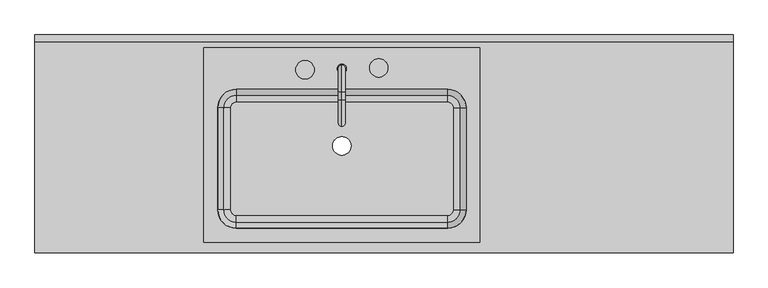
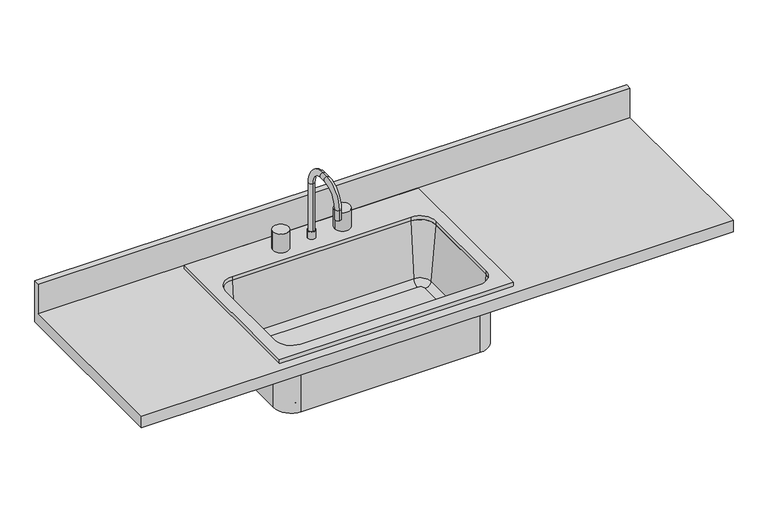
"""IFC4 building model written with IfcOpenShell, lengths in millimetres: furniture geometry, 流理台面 (3)-含水槽 : 600mm 深."""

from ifc_helpers import new_model, si_unit, point, frame, frame_2d, origin, place, context, project, spatial, polyline, circle_curve, ellipse_curve, trimmed, segment, composite_curve, outline, extrude, source, transform, mapped, element, save
from ifc_brep_helpers import plane_surface, cylinder_surface, revolved_surface, advanced_brep


def furniture_edb10db8(model_context):
    return source(origin(), model_context, "Body", "SolidModel", [
        advanced_brep(
        [(-6.7986409, -200.8, 684.1), (-63.9486409, -143.65, 684.1), (-63.9486409, -143.65, 900.0), (-6.7986409, -200.8, 900.0), (-6.7986409, -481.8, 684.1), (-63.9486409, -538.95, 684.1), (-646.1486409, -538.95, 684.1), (-703.2986409, -481.8, 684.1), (-703.2986409, -200.8, 684.1), (-646.1486409, -143.65, 684.1), (-380.4486409, -305.5454011, 684.1), (-329.6486409, -305.5454011, 684.1), (-48.6602227, -200.8, 693.625), (-63.9486409, -185.5115818, 693.625), (-646.1486409, -185.5115818, 693.625), (-661.4370591, -200.8, 693.625), (-661.4370591, -481.8, 693.625), (-646.1486409, -497.0884182, 693.625), (-63.9486409, -497.0884182, 693.625), (-48.6602227, -481.8, 693.625), (-380.4486409, -305.5454011, 693.625), (-329.6486409, -305.5454011, 693.625), (-29.6827137, -200.8, 711.0146831), (-63.9486409, -166.5340728, 711.0146831), (-13.1486409, -200.8, 900.0), (-63.9486409, -150.0, 900.0), (-6.7986409, -481.8, 900.0), (-29.6827137, -481.8, 711.0146831), (-13.1486409, -481.8, 900.0), (-63.9486409, -538.95, 900.0), (-63.9486409, -516.0659272, 711.0146831), (-63.9486409, -532.6, 900.0), (-646.1486409, -538.95, 900.0), (-646.1486409, -516.0659272, 711.0146831), (-646.1486409, -532.6, 900.0), (-703.2986409, -481.8, 900.0), (-680.4145681, -481.8, 711.0146831), (-696.9486409, -481.8, 900.0), (-703.2986409, -200.8, 900.0), (-680.4145681, -200.8, 711.0146831), (-696.9486409, -200.8, 900.0), (-646.1486409, -143.65, 900.0), (-646.1486409, -166.5340728, 711.0146831), (-646.1486409, -150.0, 900.0)],
        [
            (0, 1, circle_curve(frame((-63.9486409, -200.8, 684.1), z_axis=(0.0, 0.0, 1.0), x_axis=(0.0, 1.0, 0.0)), 57.15)),
            (1, 2),
            (2, 3, circle_curve(frame((-63.9486409, -200.8, 900.0), z_axis=(0.0, 0.0, -1.0), x_axis=(0.0, 1.0, 0.0)), 57.15)),
            (3, 0),
            (0, 4),
            (4, 5, circle_curve(frame((-63.9486409, -481.8, 684.1), z_axis=(0.0, 0.0, -1.0), x_axis=(1.0, 0.0, 0.0)), 57.15)),
            (5, 6),
            (6, 7, circle_curve(frame((-646.1486409, -481.8, 684.1), z_axis=(0.0, 0.0, -1.0), x_axis=(0.0, -1.0, 0.0)), 57.15)),
            (7, 8),
            (8, 9, circle_curve(frame((-646.1486409, -200.8, 684.1), z_axis=(0.0, 0.0, -1.0), x_axis=(-1.0, 0.0, 0.0)), 57.15)),
            (9, 1),
            (10, 11, circle_curve(frame((-355.0486409, -305.5454011, 684.1), z_axis=(0.0, 0.0, 1.0), x_axis=(1.0, 0.0, 0.0)), 25.4)),
            (11, 10, circle_curve(frame((-355.0486409, -305.5454011, 684.1), z_axis=(0.0, 0.0, 1.0), x_axis=(1.0, 0.0, 0.0)), 25.4)),
            (12, 13, circle_curve(frame((-63.9486409, -200.8, 693.625), z_axis=(0.0, 0.0, 1.0), x_axis=(0.0, 1.0, 0.0)), 15.2884182)),
            (13, 14),
            (14, 15, circle_curve(frame((-646.1486409, -200.8, 693.625), z_axis=(0.0, 0.0, 1.0), x_axis=(-1.0, 0.0, 0.0)), 15.2884182)),
            (15, 16),
            (16, 17, circle_curve(frame((-646.1486409, -481.8, 693.625), z_axis=(0.0, 0.0, 1.0), x_axis=(0.0, -1.0, 0.0)), 15.2884182)),
            (17, 18),
            (18, 19, circle_curve(frame((-63.9486409, -481.8, 693.625), z_axis=(0.0, 0.0, 1.0), x_axis=(1.0, 0.0, 0.0)), 15.2884182)),
            (19, 12),
            (20, 21, circle_curve(frame((-355.0486409, -305.5454011, 693.625), z_axis=(0.0, 0.0, -1.0), x_axis=(1.0, 0.0, 0.0)), 25.4)),
            (21, 20, circle_curve(frame((-355.0486409, -305.5454011, 693.625), z_axis=(0.0, 0.0, -1.0), x_axis=(1.0, 0.0, 0.0)), 25.4)),
            (12, 22, circle_curve(frame((-48.6602227, -200.8, 712.675), z_axis=(0.0, -1.0, 0.0), x_axis=(1.0, 0.0, 0.0)), 19.05)),
            (22, 23, circle_curve(frame((-63.9486409, -200.8, 711.0146831), z_axis=(0.0, 0.0, 1.0), x_axis=(0.0, 1.0, 0.0)), 34.2659272)),
            (23, 13, circle_curve(frame((-63.9486409, -185.5115818, 712.675), z_axis=(-1.0, 0.0, 0.0), x_axis=(0.0, 1.0, 0.0)), 19.05)),
            (22, 24),
            (24, 25, circle_curve(frame((-63.9486409, -200.8, 900.0), z_axis=(0.0, 0.0, 1.0), x_axis=(0.0, 1.0, 0.0)), 50.8)),
            (25, 23),
            (2, 25),
            (24, 3),
            (3, 26),
            (26, 4),
            (19, 27, circle_curve(frame((-48.6602227, -481.8, 712.675), z_axis=(0.0, -1.0, 0.0), x_axis=(1.0, 0.0, 0.0)), 19.05)),
            (27, 22),
            (27, 28),
            (28, 24),
            (28, 26),
            (26, 29, circle_curve(frame((-63.9486409, -481.8, 900.0), z_axis=(0.0, 0.0, -1.0), x_axis=(1.0, 0.0, 0.0)), 57.15)),
            (29, 5),
            (18, 30, circle_curve(frame((-63.9486409, -497.0884182, 712.675), z_axis=(-1.0, 0.0, 0.0), x_axis=(0.0, -1.0, 0.0)), 19.05)),
            (30, 27, circle_curve(frame((-63.9486409, -481.8, 711.0146831), z_axis=(0.0, 0.0, 1.0), x_axis=(1.0, 0.0, 0.0)), 34.2659272)),
            (30, 31),
            (31, 28, circle_curve(frame((-63.9486409, -481.8, 900.0), z_axis=(0.0, 0.0, 1.0), x_axis=(1.0, 0.0, 0.0)), 50.8)),
            (31, 29),
            (29, 32),
            (32, 6),
            (17, 33, circle_curve(frame((-646.1486409, -497.0884182, 712.675), z_axis=(-1.0, 0.0, 0.0), x_axis=(0.0, -1.0, 0.0)), 19.05)),
            (33, 30),
            (33, 34),
            (34, 31),
            (34, 32),
            (32, 35, circle_curve(frame((-646.1486409, -481.8, 900.0), z_axis=(0.0, 0.0, -1.0), x_axis=(0.0, -1.0, 0.0)), 57.15)),
            (35, 7),
            (16, 36, circle_curve(frame((-661.4370591, -481.8, 712.675), z_axis=(0.0, 1.0, 0.0), x_axis=(-1.0, 0.0, 0.0)), 19.05)),
            (36, 33, circle_curve(frame((-646.1486409, -481.8, 711.0146831), z_axis=(0.0, 0.0, 1.0), x_axis=(0.0, -1.0, 0.0)), 34.2659272)),
            (36, 37),
            (37, 34, circle_curve(frame((-646.1486409, -481.8, 900.0), z_axis=(0.0, 0.0, 1.0), x_axis=(0.0, -1.0, 0.0)), 50.8)),
            (37, 35),
            (35, 38),
            (38, 8),
            (15, 39, circle_curve(frame((-661.4370591, -200.8, 712.675), z_axis=(0.0, 1.0, 0.0), x_axis=(-1.0, 0.0, 0.0)), 19.05)),
            (39, 36),
            (39, 40),
            (40, 37),
            (40, 38),
            (38, 41, circle_curve(frame((-646.1486409, -200.8, 900.0), z_axis=(0.0, 0.0, -1.0), x_axis=(-1.0, 0.0, 0.0)), 57.15)),
            (41, 9),
            (14, 42, circle_curve(frame((-646.1486409, -185.5115818, 712.675), z_axis=(1.0, 0.0, 0.0), x_axis=(0.0, 1.0, 0.0)), 19.05)),
            (42, 39, circle_curve(frame((-646.1486409, -200.8, 711.0146831), z_axis=(0.0, 0.0, 1.0), x_axis=(-1.0, 0.0, 0.0)), 34.2659272)),
            (42, 43),
            (43, 40, circle_curve(frame((-646.1486409, -200.8, 900.0), z_axis=(0.0, 0.0, 1.0), x_axis=(-1.0, 0.0, 0.0)), 50.8)),
            (43, 41),
            (41, 2),
            (23, 42),
            (25, 43),
            (20, 10),
            (11, 21),
        ],
        [
            cylinder_surface(frame((-63.9486409, -200.8, 0.0), z_axis=(0.0, 0.0, -1.0), x_axis=(0.0, 1.0, 0.0)), 57.15),
            plane_surface(frame((-63.9486409, -200.8, 684.1), z_axis=(0.0, 0.0, -1.0), x_axis=(0.0, 1.0, 0.0))),
            plane_surface(frame((-63.9486409, -200.8, 693.625), z_axis=(0.0, 0.0, 1.0), x_axis=(0.0, 1.0, 0.0))),
            revolved_surface(trimmed(ellipse_curve(frame((-63.9486409, -185.5115818, 712.675), z_axis=(1.0, 0.0, 0.0), x_axis=(0.0, 1.0, 0.0)), 19.05, 19.05), [point((-63.9486409, -185.5115818, 693.625))], [point((-63.9486409, -166.5340728, 711.0146831))], True, "CARTESIAN"), (-63.9486409, -200.8, 0.0), (0.0, 0.0, -1.0)),
            revolved_surface(polyline([(-63.9486409, -166.5340728, 711.0146831), (-63.9486409, -150.0, 900.0)]), (-63.9486409, -200.8, 0.0), (0.0, 0.0, -1.0)),
            plane_surface(frame((-63.9486409, -200.8, 900.0), z_axis=(0.0, 0.0, 1.0), x_axis=(0.0, 1.0, 0.0))),
            plane_surface(frame((-6.7986409, -200.8, 900.0), z_axis=(1.0, 0.0, 0.0), x_axis=(0.0, -1.0, 0.0))),
            revolved_surface(polyline([(-29.610222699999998, -481.8, 712.675), (-29.610222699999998, -200.8, 712.675)]), (-48.6602227, -200.8, 712.675), (0.0, -1.0, 0.0)),
            plane_surface(frame((-29.6827137, -200.8, 711.0146831), z_axis=(-0.9961946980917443, 0.0, 0.08715574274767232), x_axis=(0.0, -1.0, 0.0))),
            plane_surface(frame((-13.1486409, -200.8, 900.0), z_axis=(0.0, 0.0, 1.0), x_axis=(0.0, -1.0, 0.0))),
            cylinder_surface(frame((-63.9486409, -481.8, 0.0), z_axis=(0.0, 0.0, -1.0), x_axis=(1.0, 0.0, 0.0)), 57.15),
            revolved_surface(trimmed(ellipse_curve(frame((-48.6602227, -481.8, 712.675), z_axis=(0.0, -1.0, 0.0), x_axis=(1.0, 0.0, 0.0)), 19.05, 19.05), [point((-48.6602227, -481.8, 693.625))], [point((-29.6827137, -481.8, 711.0146831))], True, "CARTESIAN"), (-63.9486409, -481.8, 0.0), (0.0, 0.0, -1.0)),
            revolved_surface(polyline([(-29.6827137, -481.8, 711.0146831), (-13.1486409, -481.8, 900.0)]), (-63.9486409, -481.8, 0.0), (0.0, 0.0, -1.0)),
            plane_surface(frame((-63.9486409, -481.8, 900.0), z_axis=(0.0, 0.0, 1.0), x_axis=(1.0, 0.0, 0.0))),
            plane_surface(frame((-63.9486409, -538.95, 900.0), z_axis=(0.0, -1.0, 0.0), x_axis=(-1.0, 0.0, 0.0))),
            revolved_surface(polyline([(-646.1486409, -516.1384181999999, 712.675), (-63.9486409, -516.1384181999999, 712.675)]), (-63.9486409, -497.0884182, 712.675), (-1.0, 0.0, 0.0)),
            plane_surface(frame((-63.9486409, -516.0659272, 711.0146831), z_axis=(0.0, 0.9961946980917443, 0.08715574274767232), x_axis=(-1.0, 0.0, 0.0))),
            plane_surface(frame((-63.9486409, -532.6, 900.0), z_axis=(0.0, 0.0, 1.0), x_axis=(-1.0, 0.0, 0.0))),
            cylinder_surface(frame((-646.1486409, -481.8, 0.0), z_axis=(0.0, 0.0, -1.0), x_axis=(0.0, -1.0, 0.0)), 57.15),
            revolved_surface(trimmed(ellipse_curve(frame((-646.1486409, -497.0884182, 712.675), z_axis=(-1.0, 0.0, 0.0), x_axis=(0.0, -1.0, 0.0)), 19.05, 19.05), [point((-646.1486409, -497.0884182, 693.625))], [point((-646.1486409, -516.0659272, 711.0146831))], True, "CARTESIAN"), (-646.1486409, -481.8, 0.0), (0.0, 0.0, -1.0)),
            revolved_surface(polyline([(-646.1486409, -516.0659272, 711.0146831), (-646.1486409, -532.6, 900.0)]), (-646.1486409, -481.8, 0.0), (0.0, 0.0, -1.0)),
            plane_surface(frame((-646.1486409, -481.8, 900.0), z_axis=(0.0, 0.0, 1.0), x_axis=(0.0, -1.0, 0.0))),
            plane_surface(frame((-703.2986409, -481.8, 900.0), z_axis=(-1.0, 0.0, 0.0), x_axis=(0.0, 1.0, 0.0))),
            revolved_surface(polyline([(-680.4870591, -200.8, 712.675), (-680.4870591, -481.8, 712.675)]), (-661.4370591, -481.8, 712.675), (0.0, 1.0, 0.0)),
            plane_surface(frame((-680.4145681, -481.8, 711.0146831), z_axis=(0.9961946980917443, 0.0, 0.08715574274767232), x_axis=(0.0, 1.0, 0.0))),
            plane_surface(frame((-696.9486409, -481.8, 900.0), z_axis=(0.0, 0.0, 1.0), x_axis=(0.0, 1.0, 0.0))),
            cylinder_surface(frame((-646.1486409, -200.8, 0.0), z_axis=(0.0, 0.0, -1.0), x_axis=(-1.0, 0.0, 0.0)), 57.15),
            revolved_surface(trimmed(ellipse_curve(frame((-661.4370591, -200.8, 712.675), z_axis=(0.0, 1.0, 0.0), x_axis=(-1.0, 0.0, 0.0)), 19.05, 19.05), [point((-661.4370591, -200.8, 693.625))], [point((-680.4145681, -200.8, 711.0146831))], True, "CARTESIAN"), (-646.1486409, -200.8, 0.0), (0.0, 0.0, -1.0)),
            revolved_surface(polyline([(-680.4145681, -200.8, 711.0146831), (-696.9486409, -200.8, 900.0)]), (-646.1486409, -200.8, 0.0), (0.0, 0.0, -1.0)),
            plane_surface(frame((-646.1486409, -200.8, 900.0), z_axis=(0.0, 0.0, 1.0), x_axis=(-1.0, 0.0, 0.0))),
            plane_surface(frame((-646.1486409, -143.65, 900.0), z_axis=(0.0, 1.0, 0.0), x_axis=(1.0, 0.0, 0.0))),
            revolved_surface(polyline([(-63.94864089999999, -166.46158179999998, 712.675), (-646.1486409, -166.46158179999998, 712.675)]), (-646.1486409, -185.5115818, 712.675), (1.0, 0.0, 0.0)),
            plane_surface(frame((-646.1486409, -166.5340728, 711.0146831), z_axis=(0.0, -0.9961946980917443, 0.08715574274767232), x_axis=(1.0, 0.0, 0.0))),
            plane_surface(frame((-646.1486409, -150.0, 900.0), z_axis=(0.0, 0.0, 1.0), x_axis=(1.0, 0.0, 0.0))),
            revolved_surface(polyline([(-329.64864090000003, -305.5454011, 684.1), (-329.64864090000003, -305.5454011, 693.625)]), (-355.0486409, -305.5454011, 0.0), (0.0, 0.0, -1.0)),
        ],
        [
            (0, [[1, 2, 3, 4]]),
            (1, [[-1, 5, 6, 7, 8, 9, 10, 11], [12, 13]]),
            (2, [[14, 15, 16, 17, 18, 19, 20, 21], [22, 23]]),
            (3, [[-14, 24, 25, 26]]),
            (4, [[-25, 27, 28, 29]]),
            (5, [[-3, 30, -28, 31]]),
            (6, [[-4, 32, 33, -5]]),
            (7, [[-24, -21, 34, 35]]),
            (8, [[-27, -35, 36, 37]]),
            (9, [[-31, -37, 38, -32]]),
            (10, [[-33, 39, 40, -6]]),
            (11, [[-34, -20, 41, 42]]),
            (12, [[-36, -42, 43, 44]]),
            (13, [[-38, -44, 45, -39]]),
            (14, [[-40, 46, 47, -7]]),
            (15, [[-41, -19, 48, 49]]),
            (16, [[-43, -49, 50, 51]]),
            (17, [[-45, -51, 52, -46]]),
            (18, [[-47, 53, 54, -8]]),
            (19, [[-48, -18, 55, 56]]),
            (20, [[-50, -56, 57, 58]]),
            (21, [[-52, -58, 59, -53]]),
            (22, [[-54, 60, 61, -9]]),
            (23, [[-55, -17, 62, 63]]),
            (24, [[-57, -63, 64, 65]]),
            (25, [[-59, -65, 66, -60]]),
            (26, [[-61, 67, 68, -10]]),
            (27, [[-62, -16, 69, 70]]),
            (28, [[-64, -70, 71, 72]]),
            (29, [[-66, -72, 73, -67]]),
            (30, [[-2, -11, -68, 74]]),
            (31, [[-26, 75, -69, -15]]),
            (32, [[-29, 76, -71, -75]]),
            (33, [[-30, -74, -73, -76]]),
            (34, [[-22, 77, -13, 78]]),
            (34, [[-23, -78, -12, -77]]),
        ],
    ),
        advanced_brep(
        [(-367.7486409, -92.85, 938.1), (-342.3486409, -92.85, 938.1), (-355.0486409, -83.325, 938.1), (-355.0486409, -102.375, 938.1), (-367.7486409, -92.85, 912.7), (-342.3486409, -92.85, 912.7), (-355.0486409, -83.325, 1100.025), (-355.0486409, -102.375, 1100.025), (-355.0486409, -156.35, 1173.05), (-355.0486409, -156.35, 1154.0), (-355.0486409, -178.575, 1173.05), (-355.0486409, -178.575, 1154.0), (-355.0486409, -251.6, 1100.025), (-355.0486409, -232.55, 1100.025), (-355.0486409, -251.6, 1065.1), (-355.0486409, -232.55, 1065.1)],
        [
            (0, 1, circle_curve(frame((-355.0486409, -92.85, 938.1), z_axis=(0.0, 0.0, 1.0), x_axis=(1.0, 0.0, 0.0)), 12.7)),
            (1, 0, circle_curve(frame((-355.0486409, -92.85, 938.1), z_axis=(0.0, 0.0, 1.0), x_axis=(1.0, 0.0, 0.0)), 12.7)),
            (2, 3, circle_curve(frame((-355.0486409, -92.85, 938.1), z_axis=(0.0, 0.0, -1.0), x_axis=(0.0, -1.0, 0.0)), 9.525)),
            (3, 2, circle_curve(frame((-355.0486409, -92.85, 938.1), z_axis=(0.0, 0.0, -1.0), x_axis=(0.0, -1.0, 0.0)), 9.525)),
            (4, 5, circle_curve(frame((-355.0486409, -92.85, 912.7), z_axis=(0.0, 0.0, -1.0), x_axis=(1.0, 0.0, 0.0)), 12.7)),
            (5, 4, circle_curve(frame((-355.0486409, -92.85, 912.7), z_axis=(0.0, 0.0, -1.0), x_axis=(1.0, 0.0, 0.0)), 12.7)),
            (0, 4),
            (5, 1),
            (6, 7, circle_curve(frame((-355.0486409, -92.85, 1100.025), z_axis=(0.0, 0.0, -1.0), x_axis=(0.0, -1.0, 0.0)), 9.525)),
            (7, 3),
            (2, 6),
            (7, 6, circle_curve(frame((-355.0486409, -92.85, 1100.025), z_axis=(0.0, 0.0, -1.0), x_axis=(0.0, -1.0, 0.0)), 9.525)),
            (6, 8, circle_curve(frame((-355.0486409, -156.35, 1100.025), z_axis=(1.0, 0.0, 0.0), x_axis=(0.0, 1.0, 0.0)), 73.025)),
            (8, 9, circle_curve(frame((-355.0486409, -156.35, 1163.525), z_axis=(0.0, 1.0, 0.0), x_axis=(0.0, 0.0, -1.0)), 9.525)),
            (9, 7, circle_curve(frame((-355.0486409, -156.35, 1100.025), z_axis=(-1.0, 0.0, 0.0), x_axis=(0.0, 1.0, 0.0)), 53.975)),
            (9, 8, circle_curve(frame((-355.0486409, -156.35, 1163.525), z_axis=(0.0, 1.0, 0.0), x_axis=(0.0, 0.0, -1.0)), 9.525)),
            (8, 10),
            (10, 11, circle_curve(frame((-355.0486409, -178.575, 1163.525), z_axis=(0.0, 1.0, 0.0), x_axis=(0.0, 0.0, -1.0)), 9.525)),
            (11, 9),
            (11, 10, circle_curve(frame((-355.0486409, -178.575, 1163.525), z_axis=(0.0, 1.0, 0.0), x_axis=(0.0, 0.0, -1.0)), 9.525)),
            (10, 12, circle_curve(frame((-355.0486409, -178.575, 1100.025), z_axis=(1.0, 0.0, 0.0), x_axis=(0.0, 0.0, 1.0)), 73.025)),
            (12, 13, circle_curve(frame((-355.0486409, -242.075, 1100.025), z_axis=(0.0, 0.0, 1.0), x_axis=(0.0, 1.0, 0.0)), 9.525)),
            (13, 11, circle_curve(frame((-355.0486409, -178.575, 1100.025), z_axis=(-1.0, 0.0, 0.0), x_axis=(0.0, 0.0, 1.0)), 53.975)),
            (13, 12, circle_curve(frame((-355.0486409, -242.075, 1100.025), z_axis=(0.0, 0.0, 1.0), x_axis=(0.0, 1.0, 0.0)), 9.525)),
            (14, 15, circle_curve(frame((-355.0486409, -242.075, 1065.1), z_axis=(0.0, 0.0, -1.0), x_axis=(0.0, 1.0, 0.0)), 9.525)),
            (15, 14, circle_curve(frame((-355.0486409, -242.075, 1065.1), z_axis=(0.0, 0.0, -1.0), x_axis=(0.0, 1.0, 0.0)), 9.525)),
            (12, 14),
            (15, 13),
        ],
        [
            plane_surface(frame((-342.3486409, -92.85, 938.1), z_axis=(0.0, 0.0, 1.0), x_axis=(0.0, 1.0, 0.0))),
            plane_surface(frame((-342.3486409, -92.85, 912.7), z_axis=(0.0, 0.0, -1.0), x_axis=(0.0, -1.0, 0.0))),
            cylinder_surface(frame((-355.0486409, -92.85, 912.7), z_axis=(0.0, 0.0, 1.0), x_axis=(1.0, 0.0, 0.0)), 12.7),
            cylinder_surface(frame((-355.0486409, -92.85, 912.7), z_axis=(0.0, 0.0, -1.0), x_axis=(0.0, -1.0, 0.0)), 9.525),
            revolved_surface(trimmed(ellipse_curve(frame((-355.0486409, -92.85, 1100.025), z_axis=(0.0, 0.0, -1.0), x_axis=(0.0, -1.0, 0.0)), 9.525, 9.525), [point((-355.0486409, -83.325, 1100.025))], [point((-355.0486409, -102.375, 1100.025))], True, "CARTESIAN"), (-355.0486409, -156.35, 1100.025), (1.0, 0.0, 0.0)),
            revolved_surface(trimmed(ellipse_curve(frame((-355.0486409, -92.85, 1100.025), z_axis=(0.0, 0.0, -1.0), x_axis=(0.0, -1.0, 0.0)), 9.525, 9.525), [point((-355.0486409, -102.375, 1100.025))], [point((-355.0486409, -83.325, 1100.025))], True, "CARTESIAN"), (-355.0486409, -156.35, 1100.025), (1.0, 0.0, 0.0)),
            cylinder_surface(frame((-355.0486409, -156.35, 1163.525), z_axis=(0.0, 1.0, 0.0), x_axis=(0.0, 0.0, -1.0)), 9.525),
            revolved_surface(trimmed(ellipse_curve(frame((-355.0486409, -178.575, 1163.525), z_axis=(0.0, 1.0, 0.0), x_axis=(0.0, 0.0, -1.0)), 9.525, 9.525), [point((-355.0486409, -178.575, 1173.05))], [point((-355.0486409, -178.575, 1154.0))], True, "CARTESIAN"), (-355.0486409, -178.575, 1100.025), (1.0, 0.0, 0.0)),
            revolved_surface(trimmed(ellipse_curve(frame((-355.0486409, -178.575, 1163.525), z_axis=(0.0, 1.0, 0.0), x_axis=(0.0, 0.0, -1.0)), 9.525, 9.525), [point((-355.0486409, -178.575, 1154.0))], [point((-355.0486409, -178.575, 1173.05))], True, "CARTESIAN"), (-355.0486409, -178.575, 1100.025), (1.0, 0.0, 0.0)),
            plane_surface(frame((-355.0486409, -251.6, 1065.1), z_axis=(0.0, 0.0, -1.0), x_axis=(-1.0, 0.0, 0.0))),
            cylinder_surface(frame((-355.0486409, -242.075, 1100.025), z_axis=(0.0, 0.0, 1.0), x_axis=(0.0, 1.0, 0.0)), 9.525),
        ],
        [
            (0, [[1, 2], [3, 4]]),
            (1, [[5, 6]]),
            (2, [[-1, 7, -6, 8]]),
            (2, [[-2, -8, -5, -7]]),
            (3, [[9, 10, -3, 11]]),
            (3, [[12, -11, -4, -10]]),
            (4, [[-9, 13, 14, 15]]),
            (5, [[-12, -15, 16, -13]]),
            (6, [[-14, 17, 18, 19]]),
            (6, [[-16, -19, 20, -17]]),
            (7, [[-18, 21, 22, 23]]),
            (8, [[-20, -23, 24, -21]]),
            (9, [[25, 26]]),
            (10, [[-22, 27, -26, 28]]),
            (10, [[-24, -28, -25, -27]]),
        ],
    ),
        extrude(outline(composite_curve([segment(trimmed(circle_curve(frame_2d((-456.6486409, -95.9287936)), 25.4), [point((-482.0486409, -95.9287936))], [point((-431.2486409, -95.9287936))], False, "CARTESIAN"), True, "CONTINUOUS"), segment(trimmed(circle_curve(frame_2d((-456.6486409, -95.9287936)), 25.4), [point((-431.2486409, -95.9287936))], [point((-482.0486409, -95.9287936))], False, "CARTESIAN"), True, "CONTINUOUS")], self_intersect=False)), frame((0.0, 0.0, 912.7), z_axis=(0.0, 0.0, 1.0), x_axis=(1.0, 0.0, 0.0)), (0.0, 0.0, 1.0), 63.5),
        extrude(outline(composite_curve([segment(trimmed(circle_curve(frame_2d((-253.4486409, -90.7320688)), 25.4), [point((-278.8486409, -90.7320688))], [point((-228.0486409, -90.7320688))], False, "CARTESIAN"), True, "CONTINUOUS"), segment(trimmed(circle_curve(frame_2d((-253.4486409, -90.7320688)), 25.4), [point((-228.0486409, -90.7320688))], [point((-278.8486409, -90.7320688))], False, "CARTESIAN"), True, "CONTINUOUS")], self_intersect=False)), frame((0.0, 0.0, 912.7), z_axis=(0.0, 0.0, 1.0), x_axis=(1.0, 0.0, 0.0)), (0.0, 0.0, 1.0), 63.5),
        extrude(outline(polyline([(24.9513591, -35.7), (24.9513591, -570.7), (-735.0486409, -570.7), (-735.0486409, -35.7), (24.9513591, -35.7)]), holes=[composite_curve([segment(polyline([(-63.9486409, -150.0), (-646.1486409, -150.0)]), True, "CONTINUOUS"), segment(trimmed(circle_curve(frame_2d((-646.1486409, -200.8)), 50.8), [point((-646.1486409, -150.0))], [point((-696.9486409, -200.8))], True, "CARTESIAN"), True, "CONTINUOUS"), segment(polyline([(-696.9486409, -200.8), (-696.9486409, -481.8)]), True, "CONTINUOUS"), segment(trimmed(circle_curve(frame_2d((-646.1486409, -481.8)), 50.8), [point((-696.9486409, -481.8))], [point((-646.1486409, -532.6))], True, "CARTESIAN"), True, "CONTINUOUS"), segment(polyline([(-646.1486409, -532.6), (-63.9486409, -532.6)]), True, "CONTINUOUS"), segment(trimmed(circle_curve(frame_2d((-63.9486409, -481.8)), 50.8), [point((-63.9486409, -532.6))], [point((-13.1486409, -481.8))], True, "CARTESIAN"), True, "CONTINUOUS"), segment(polyline([(-13.1486409, -481.8), (-13.1486409, -200.8)]), True, "CONTINUOUS"), segment(trimmed(circle_curve(frame_2d((-63.9486409, -200.8)), 50.8), [point((-13.1486409, -200.8))], [point((-63.9486409, -150.0))], True, "CARTESIAN"), True, "CONTINUOUS")], self_intersect=False)]), frame((0.0, 0.0, 900.0), z_axis=(0.0, 0.0, 1.0), x_axis=(1.0, 0.0, 0.0)), (0.0, 0.0, 1.0), 12.7),
        advanced_brep(
        [(-1200.4622951, -600.0, 900.0), (722.4339233, -600.0, 900.0), (722.4339233, -19.05, 900.0), (-1200.4622951, -19.05, 900.0), (-654.4486409, -137.3, 900.0), (-55.6486409, -137.3, 900.0), (-4.8486409, -188.1, 900.0), (-4.8486409, -501.9, 900.0), (-55.6486409, -552.7, 900.0), (-654.4486409, -552.7, 900.0), (-705.2486409, -501.9, 900.0), (-705.2486409, -188.1, 900.0), (722.4339233, 0.0, 860.0), (722.4339233, -600.0, 860.0), (-1200.4622951, -600.0, 860.0), (-1200.4622951, 0.0, 860.0), (-55.6486409, -137.3, 860.0), (-654.4486409, -137.3, 860.0), (-705.2486409, -188.1, 860.0), (-705.2486409, -501.9, 860.0), (-654.4486409, -552.7, 860.0), (-55.6486409, -552.7, 860.0), (-4.8486409, -501.9, 860.0), (-4.8486409, -188.1, 860.0), (-1200.4622951, 0.0, 1001.6), (722.4339233, 0.0, 1001.6), (-1200.4622951, -19.05, 1001.6), (722.4339233, -19.05, 1001.6)],
        [
            (0, 1),
            (1, 2),
            (2, 3),
            (3, 0),
            (4, 5),
            (5, 6, circle_curve(frame((-55.6486409, -188.1, 900.0), z_axis=(0.0, 0.0, -1.0), x_axis=(1.0, 0.0, 0.0)), 50.8)),
            (6, 7),
            (7, 8, circle_curve(frame((-55.6486409, -501.9, 900.0), z_axis=(0.0, 0.0, -1.0), x_axis=(1.0, 0.0, 0.0)), 50.8)),
            (8, 9),
            (9, 10, circle_curve(frame((-654.4486409, -501.9, 900.0), z_axis=(0.0, 0.0, -1.0), x_axis=(1.0, 0.0, 0.0)), 50.8)),
            (10, 11),
            (11, 4, circle_curve(frame((-654.4486409, -188.1, 900.0), z_axis=(0.0, 0.0, -1.0), x_axis=(1.0, 0.0, 0.0)), 50.8)),
            (12, 13),
            (13, 14),
            (14, 15),
            (15, 12),
            (16, 17),
            (17, 18, circle_curve(frame((-654.4486409, -188.1, 860.0), z_axis=(0.0, 0.0, 1.0), x_axis=(1.0, 0.0, 0.0)), 50.8)),
            (18, 19),
            (19, 20, circle_curve(frame((-654.4486409, -501.9, 860.0), z_axis=(0.0, 0.0, 1.0), x_axis=(1.0, 0.0, 0.0)), 50.8)),
            (20, 21),
            (21, 22, circle_curve(frame((-55.6486409, -501.9, 860.0), z_axis=(0.0, 0.0, 1.0), x_axis=(1.0, 0.0, 0.0)), 50.8)),
            (22, 23),
            (23, 16, circle_curve(frame((-55.6486409, -188.1, 860.0), z_axis=(0.0, 0.0, 1.0), x_axis=(1.0, 0.0, 0.0)), 50.8)),
            (15, 24),
            (24, 25),
            (25, 12),
            (14, 0),
            (3, 26),
            (26, 24),
            (13, 1),
            (25, 27),
            (27, 2),
            (26, 27),
            (4, 17),
            (16, 5),
            (11, 18),
            (10, 19),
            (9, 20),
            (8, 21),
            (7, 22),
            (6, 23),
        ],
        [
            plane_surface(frame((-1200.4622951, 0.0, 900.0), z_axis=(0.0, 0.0, 1.0), x_axis=(-1.0, 0.0, 0.0))),
            plane_surface(frame((-1200.4622951, 0.0, 860.0), z_axis=(0.0, 0.0, -1.0), x_axis=(1.0, 0.0, 0.0))),
            plane_surface(frame((722.4339233, 0.0, 900.0), z_axis=(0.0, 1.0, 0.0), x_axis=(0.0, 0.0, -1.0))),
            plane_surface(frame((-1200.4622951, 0.0, 900.0), z_axis=(-1.0, 0.0, 0.0), x_axis=(0.0, 0.0, -1.0))),
            plane_surface(frame((-1200.4622951, -600.0, 900.0), z_axis=(0.0, -1.0, 0.0), x_axis=(0.0, 0.0, -1.0))),
            plane_surface(frame((722.4339233, -600.0, 900.0), z_axis=(1.0, 0.0, 0.0), x_axis=(0.0, 0.0, -1.0))),
            plane_surface(frame((-1200.4622951, 0.0, 1001.6), z_axis=(0.0, 0.0, 1.0), x_axis=(0.0, -1.0, 0.0))),
            plane_surface(frame((-1200.4622951, -19.05, 1001.6), z_axis=(0.0, -1.0, 0.0), x_axis=(0.0, 0.0, -1.0))),
            plane_surface(frame((-55.6486409, -137.3, 900.0), z_axis=(0.0, -1.0, 0.0), x_axis=(0.0, 0.0, -1.0))),
            revolved_surface(polyline([(-603.6486409, -188.1, 900.0), (-603.6486409, -188.1, 860.0)]), (-654.4486409, -188.1, 860.0), (0.0, 0.0, 1.0)),
            plane_surface(frame((-705.2486409, -188.1, 900.0), z_axis=(1.0, 0.0, 0.0), x_axis=(0.0, 0.0, -1.0))),
            revolved_surface(polyline([(-603.6486409, -501.9, 900.0), (-603.6486409, -501.9, 860.0)]), (-654.4486409, -501.9, 860.0), (0.0, 0.0, 1.0)),
            plane_surface(frame((-654.4486409, -552.7, 900.0), z_axis=(0.0, 1.0, 0.0), x_axis=(0.0, 0.0, -1.0))),
            revolved_surface(polyline([(-4.8486408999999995, -501.9, 900.0), (-4.8486408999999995, -501.9, 860.0)]), (-55.6486409, -501.9, 860.0), (0.0, 0.0, 1.0)),
            plane_surface(frame((-4.8486409, -501.9, 900.0), z_axis=(-1.0, 0.0, 0.0), x_axis=(0.0, 0.0, -1.0))),
            revolved_surface(polyline([(-4.8486408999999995, -188.1, 900.0), (-4.8486408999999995, -188.1, 860.0)]), (-55.6486409, -188.1, 860.0), (0.0, 0.0, 1.0)),
        ],
        [
            (0, [[1, 2, 3, 4], [5, 6, 7, 8, 9, 10, 11, 12]]),
            (1, [[13, 14, 15, 16], [17, 18, 19, 20, 21, 22, 23, 24]]),
            (2, [[-16, 25, 26, 27]]),
            (3, [[-15, 28, -4, 29, 30, -25]]),
            (4, [[-1, -28, -14, 31]]),
            (5, [[-13, -27, 32, 33, -2, -31]]),
            (6, [[-30, 34, -32, -26]]),
            (7, [[-34, -29, -3, -33]]),
            (8, [[35, -17, 36, -5]]),
            (9, [[-35, -12, 37, -18]]),
            (10, [[-37, -11, 38, -19]]),
            (11, [[-38, -10, 39, -20]]),
            (12, [[-39, -9, 40, -21]]),
            (13, [[-40, -8, 41, -22]]),
            (14, [[-41, -7, 42, -23]]),
            (15, [[-36, -24, -42, -6]]),
        ],
    ),
    ])


if __name__ == "__main__":
    model = new_model("IFC4")
    model_context = context("Model", 3, world=origin())
    ifc_project = project(units=[si_unit("LENGTHUNIT", "METRE", prefix="MILLI")], contexts=[model_context])
    site = spatial("IfcSite", under=ifc_project)
    building = spatial("IfcBuilding", under=site)
    placement = place(None, origin())
    furniture_shape = furniture_edb10db8(model_context)
    element("IfcFurniture", 1, ObjectType="流理台面 (3)-含水槽 : 600mm 深", at=placement, inside=building, context=model_context, shape_type="MappedRepresentation", body=[
        mapped(furniture_shape, transform((0.0, 0.0, 0.0), x_axis=(1.0, 0.0, 0.0), y_axis=(0.0, 1.0, 0.0), z_axis=(0.0, 0.0, 1.0))),
    ])
    save(model, "model.ifc")
